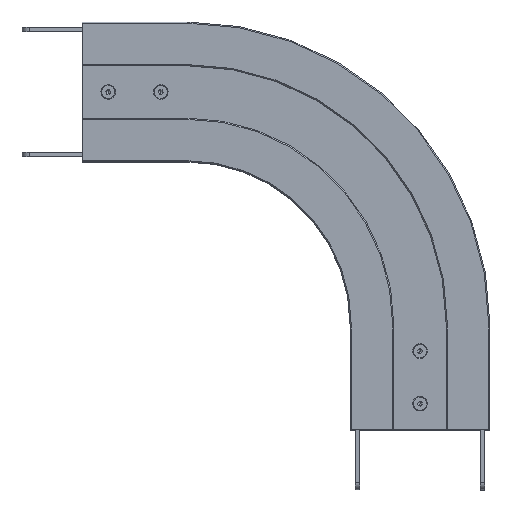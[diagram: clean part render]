
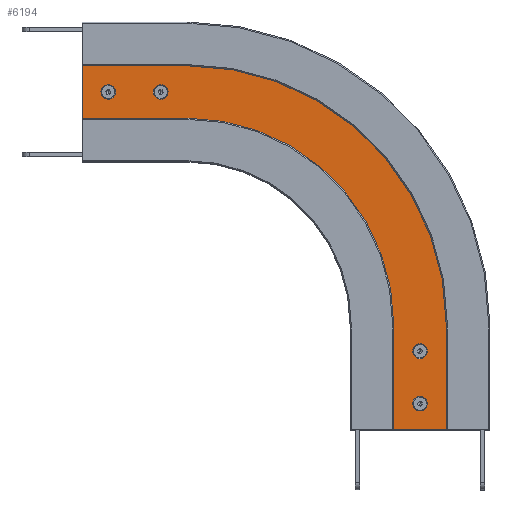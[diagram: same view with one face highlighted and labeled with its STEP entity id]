
A CAD part, top view. The second image highlights one B-rep face of the part: STEP entity #6194.
In plain terms, the highlighted planar face has unit normal (0, 0, 1).
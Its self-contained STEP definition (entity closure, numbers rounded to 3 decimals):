
#273 = VERTEX_POINT ( 'NONE', #13994 ) ;
#274 = VERTEX_POINT ( 'NONE', #13702 ) ;
#362 = VERTEX_POINT ( 'NONE', #13871 ) ;
#372 = VERTEX_POINT ( 'NONE', #13972 ) ;
#442 = VERTEX_POINT ( 'NONE', #13550 ) ;
#448 = VERTEX_POINT ( 'NONE', #13955 ) ;
#451 = VERTEX_POINT ( 'NONE', #13671 ) ;
#456 = VERTEX_POINT ( 'NONE', #14115 ) ;
#959 = EDGE_LOOP ( 'NONE', ( #8541, #16267 ) ) ;
#972 = EDGE_LOOP ( 'NONE', ( #7542, #8174 ) ) ;
#1052 = VERTEX_POINT ( 'NONE', #13533 ) ;
#1132 = CIRCLE ( 'NONE', #3780, 6.3 ) ;
#1205 = LINE ( 'NONE', #9142, #1208 ) ;
#1208 = VECTOR ( 'NONE', #8961, 1000. ) ;
#1211 = LINE ( 'NONE', #9014, #1213 ) ;
#1213 = VECTOR ( 'NONE', #9180, 1000. ) ;
#1542 = CIRCLE ( 'NONE', #4791, 6.3 ) ;
#1578 = LINE ( 'NONE', #18168, #1580 ) ;
#1580 = VECTOR ( 'NONE', #18142, 1000. ) ;
#1828 = AXIS2_PLACEMENT_3D ( 'NONE', #15180, #15803, #15186 ) ;
#2865 = AXIS2_PLACEMENT_3D ( 'NONE', #14772, #14538, #14560 ) ;
#2912 = AXIS2_PLACEMENT_3D ( 'NONE', #7716, #7653, #7429 ) ;
#2976 = EDGE_CURVE ( 'NONE', #442, #274, #1132, .T. ) ;
#3271 = EDGE_CURVE ( 'NONE', #14315, #17786, #1205, .T. ) ;
#3281 = EDGE_CURVE ( 'NONE', #14302, #14315, #1211, .T. ) ;
#3291 = AXIS2_PLACEMENT_3D ( 'NONE', #17283, #17221, #17234 ) ;
#3510 = AXIS2_PLACEMENT_3D ( 'NONE', #11854, #11754, #11529 ) ;
#3528 = AXIS2_PLACEMENT_3D ( 'NONE', #17190, #17261, #17160 ) ;
#3571 = AXIS2_PLACEMENT_3D ( 'NONE', #16345, #16908, #16635 ) ;
#3643 = EDGE_CURVE ( 'NONE', #451, #273, #1542, .T. ) ;
#3676 = EDGE_CURVE ( 'NONE', #1052, #17786, #1578, .T. ) ;
#3773 = EDGE_CURVE ( 'NONE', #456, #362, #12599, .T. ) ;
#3780 = AXIS2_PLACEMENT_3D ( 'NONE', #13820, #13880, #13460 ) ;
#3942 = EDGE_CURVE ( 'NONE', #372, #448, #12794, .T. ) ;
#4084 = EDGE_CURVE ( 'NONE', #14302, #14314, #12980, .T. ) ;
#4126 = AXIS2_PLACEMENT_3D ( 'NONE', #14701, #14646, #14777 ) ;
#4198 = EDGE_CURVE ( 'NONE', #14312, #14306, #9883, .T. ) ;
#4211 = EDGE_CURVE ( 'NONE', #1052, #14327, #9894, .T. ) ;
#4249 = AXIS2_PLACEMENT_3D ( 'NONE', #18248, #18561, #18406 ) ;
#4350 = EDGE_CURVE ( 'NONE', #14327, #14306, #10028, .T. ) ;
#4777 = EDGE_CURVE ( 'NONE', #362, #456, #12040, .T. ) ;
#4791 = AXIS2_PLACEMENT_3D ( 'NONE', #18510, #18544, #18156 ) ;
#5173 = EDGE_CURVE ( 'NONE', #273, #451, #9366, .T. ) ;
#5471 = EDGE_CURVE ( 'NONE', #274, #442, #6762, .T. ) ;
#5583 = EDGE_CURVE ( 'NONE', #448, #372, #6952, .T. ) ;
#5588 = EDGE_CURVE ( 'NONE', #14314, #14312, #6960, .T. ) ;
#6194 = ADVANCED_FACE ( 'NONE', ( #6414, #6417, #6411, #6413, #6415 ), #15272, .T. ) ;
#6411 = FACE_BOUND ( 'NONE', #959, .T. ) ;
#6413 = FACE_BOUND ( 'NONE', #972, .T. ) ;
#6414 = FACE_BOUND ( 'NONE', #17665, .T. ) ;
#6415 = FACE_OUTER_BOUND ( 'NONE', #17694, .T. ) ;
#6417 = FACE_BOUND ( 'NONE', #18648, .T. ) ;
#6686 = ORIENTED_EDGE ( 'NONE', *, *, #4777, .F. ) ;
#6691 = ORIENTED_EDGE ( 'NONE', *, *, #3643, .F. ) ;
#6762 = CIRCLE ( 'NONE', #3528, 6.3 ) ;
#6952 = CIRCLE ( 'NONE', #3291, 6.3 ) ;
#6960 = LINE ( 'NONE', #17217, #6962 ) ;
#6962 = VECTOR ( 'NONE', #17134, 1000. ) ;
#7429 = DIRECTION ( 'NONE',  ( 1., 0., 0. ) ) ;
#7435 = DIRECTION ( 'NONE',  ( 1., 0., 0. ) ) ;
#7542 = ORIENTED_EDGE ( 'NONE', *, *, #3942, .F. ) ;
#7561 = ORIENTED_EDGE ( 'NONE', *, *, #5588, .T. ) ;
#7563 = ORIENTED_EDGE ( 'NONE', *, *, #4350, .F. ) ;
#7565 = ORIENTED_EDGE ( 'NONE', *, *, #4084, .T. ) ;
#7567 = ORIENTED_EDGE ( 'NONE', *, *, #4211, .F. ) ;
#7568 = ORIENTED_EDGE ( 'NONE', *, *, #4198, .T. ) ;
#7569 = CARTESIAN_POINT ( 'NONE',  ( 776.643, -240.36, 33. ) ) ;
#7578 = ORIENTED_EDGE ( 'NONE', *, *, #3676, .T. ) ;
#7580 = ORIENTED_EDGE ( 'NONE', *, *, #3271, .F. ) ;
#7653 = DIRECTION ( 'NONE',  ( 0., 0., -1. ) ) ;
#7716 = CARTESIAN_POINT ( 'NONE',  ( 541.643, -150.36, 33. ) ) ;
#8174 = ORIENTED_EDGE ( 'NONE', *, *, #5583, .F. ) ;
#8340 = DIRECTION ( 'NONE',  ( 0., -1., 0. ) ) ;
#8345 = CARTESIAN_POINT ( 'NONE',  ( 776.643, -150.36, 33. ) ) ;
#8493 = ORIENTED_EDGE ( 'NONE', *, *, #3773, .F. ) ;
#8540 = ORIENTED_EDGE ( 'NONE', *, *, #5173, .F. ) ;
#8541 = ORIENTED_EDGE ( 'NONE', *, *, #2976, .F. ) ;
#8961 = DIRECTION ( 'NONE',  ( 0., 1., 0. ) ) ;
#9014 = CARTESIAN_POINT ( 'NONE',  ( 541.643, 14.64, 33. ) ) ;
#9142 = CARTESIAN_POINT ( 'NONE',  ( 451.643, 84.64, 33. ) ) ;
#9180 = DIRECTION ( 'NONE',  ( -1., 0., 0. ) ) ;
#9366 = CIRCLE ( 'NONE', #3510, 6.3 ) ;
#9883 = LINE ( 'NONE', #7569, #9885 ) ;
#9885 = VECTOR ( 'NONE', #7435, 1000. ) ;
#9894 = CIRCLE ( 'NONE', #2912, 235. ) ;
#10028 = LINE ( 'NONE', #8345, #10030 ) ;
#10030 = VECTOR ( 'NONE', #8340, 1000. ) ;
#10749 = CARTESIAN_POINT ( 'NONE',  ( 451.643, 14.64, 33. ) ) ;
#10958 = CARTESIAN_POINT ( 'NONE',  ( 541.643, 14.64, 33. ) ) ;
#10966 = CARTESIAN_POINT ( 'NONE',  ( 776.643, -150.36, 33. ) ) ;
#11113 = CARTESIAN_POINT ( 'NONE',  ( 451.643, 84.64, 33. ) ) ;
#11207 = CARTESIAN_POINT ( 'NONE',  ( 706.643, -150.36, 33. ) ) ;
#11210 = CARTESIAN_POINT ( 'NONE',  ( 776.643, -240.36, 33. ) ) ;
#11211 = CARTESIAN_POINT ( 'NONE',  ( 706.643, -240.36, 33. ) ) ;
#11529 = DIRECTION ( 'NONE',  ( -1., 0., 0. ) ) ;
#11754 = DIRECTION ( 'NONE',  ( 0., 0., 1. ) ) ;
#11854 = CARTESIAN_POINT ( 'NONE',  ( 519.143, 49.64, 33. ) ) ;
#12040 = CIRCLE ( 'NONE', #3571, 6.3 ) ;
#12599 = CIRCLE ( 'NONE', #4249, 6.3 ) ;
#12794 = CIRCLE ( 'NONE', #4126, 6.3 ) ;
#12980 = CIRCLE ( 'NONE', #2865, 165. ) ;
#13460 = DIRECTION ( 'NONE',  ( -1., 0., 0. ) ) ;
#13533 = CARTESIAN_POINT ( 'NONE',  ( 541.643, 84.64, 33. ) ) ;
#13550 = CARTESIAN_POINT ( 'NONE',  ( 735.343, -172.86, 33. ) ) ;
#13671 = CARTESIAN_POINT ( 'NONE',  ( 512.843, 49.64, 33. ) ) ;
#13702 = CARTESIAN_POINT ( 'NONE',  ( 747.943, -172.86, 33. ) ) ;
#13820 = CARTESIAN_POINT ( 'NONE',  ( 741.643, -172.86, 33. ) ) ;
#13871 = CARTESIAN_POINT ( 'NONE',  ( 480.443, 49.64, 33. ) ) ;
#13880 = DIRECTION ( 'NONE',  ( 0., 0., 1. ) ) ;
#13955 = CARTESIAN_POINT ( 'NONE',  ( 747.943, -217.86, 33. ) ) ;
#13972 = CARTESIAN_POINT ( 'NONE',  ( 735.343, -217.86, 33. ) ) ;
#13994 = CARTESIAN_POINT ( 'NONE',  ( 525.443, 49.64, 33. ) ) ;
#14115 = CARTESIAN_POINT ( 'NONE',  ( 467.843, 49.64, 33. ) ) ;
#14302 = VERTEX_POINT ( 'NONE', #10958 ) ;
#14306 = VERTEX_POINT ( 'NONE', #11210 ) ;
#14312 = VERTEX_POINT ( 'NONE', #11211 ) ;
#14314 = VERTEX_POINT ( 'NONE', #11207 ) ;
#14315 = VERTEX_POINT ( 'NONE', #10749 ) ;
#14327 = VERTEX_POINT ( 'NONE', #10966 ) ;
#14538 = DIRECTION ( 'NONE',  ( 0., 0., -1. ) ) ;
#14560 = DIRECTION ( 'NONE',  ( 1., 0., 0. ) ) ;
#14646 = DIRECTION ( 'NONE',  ( 0., 0., 1. ) ) ;
#14701 = CARTESIAN_POINT ( 'NONE',  ( 741.643, -217.86, 33. ) ) ;
#14772 = CARTESIAN_POINT ( 'NONE',  ( 541.643, -150.36, 33. ) ) ;
#14777 = DIRECTION ( 'NONE',  ( -1., 0., 0. ) ) ;
#15180 = CARTESIAN_POINT ( 'NONE',  ( 541.643, 84.64, 33. ) ) ;
#15186 = DIRECTION ( 'NONE',  ( -1., 0., 0. ) ) ;
#15272 = PLANE ( 'NONE',  #1828 ) ;
#15803 = DIRECTION ( 'NONE',  ( 0., 0., 1. ) ) ;
#16267 = ORIENTED_EDGE ( 'NONE', *, *, #5471, .F. ) ;
#16275 = ORIENTED_EDGE ( 'NONE', *, *, #3281, .F. ) ;
#16345 = CARTESIAN_POINT ( 'NONE',  ( 474.143, 49.64, 33. ) ) ;
#16635 = DIRECTION ( 'NONE',  ( -1., 0., 0. ) ) ;
#16908 = DIRECTION ( 'NONE',  ( 0., 0., 1. ) ) ;
#17134 = DIRECTION ( 'NONE',  ( 0., -1., 0. ) ) ;
#17160 = DIRECTION ( 'NONE',  ( -1., 0., 0. ) ) ;
#17190 = CARTESIAN_POINT ( 'NONE',  ( 741.643, -172.86, 33. ) ) ;
#17217 = CARTESIAN_POINT ( 'NONE',  ( 706.643, -150.36, 33. ) ) ;
#17221 = DIRECTION ( 'NONE',  ( 0., 0., 1. ) ) ;
#17234 = DIRECTION ( 'NONE',  ( -1., 0., 0. ) ) ;
#17261 = DIRECTION ( 'NONE',  ( 0., 0., 1. ) ) ;
#17283 = CARTESIAN_POINT ( 'NONE',  ( 741.643, -217.86, 33. ) ) ;
#17665 = EDGE_LOOP ( 'NONE', ( #8493, #6686 ) ) ;
#17694 = EDGE_LOOP ( 'NONE', ( #7580, #16275, #7565, #7561, #7568, #7563, #7567, #7578 ) ) ;
#17786 = VERTEX_POINT ( 'NONE', #11113 ) ;
#18142 = DIRECTION ( 'NONE',  ( -1., 0., 0. ) ) ;
#18156 = DIRECTION ( 'NONE',  ( -1., 0., 0. ) ) ;
#18168 = CARTESIAN_POINT ( 'NONE',  ( 541.643, 84.64, 33. ) ) ;
#18248 = CARTESIAN_POINT ( 'NONE',  ( 474.143, 49.64, 33. ) ) ;
#18406 = DIRECTION ( 'NONE',  ( -1., 0., 0. ) ) ;
#18510 = CARTESIAN_POINT ( 'NONE',  ( 519.143, 49.64, 33. ) ) ;
#18544 = DIRECTION ( 'NONE',  ( 0., 0., 1. ) ) ;
#18561 = DIRECTION ( 'NONE',  ( 0., 0., 1. ) ) ;
#18648 = EDGE_LOOP ( 'NONE', ( #6691, #8540 ) ) ;
